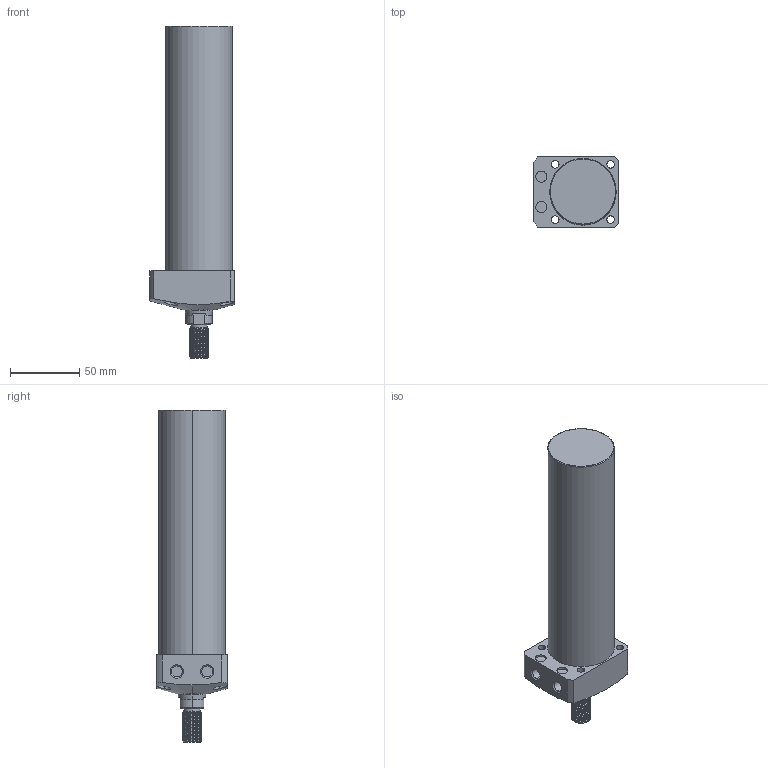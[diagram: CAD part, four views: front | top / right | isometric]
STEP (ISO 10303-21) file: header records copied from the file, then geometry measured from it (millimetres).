
FILE_DESCRIPTION (( 'STEP AP203' ), '1' );
FILE_NAME ('CLL-048CT-150.STEP', '2020-01-08T10:19:09', ( '' ), ( '' ), 'SwSTEP 2.0', 'SolidWorks 2015', '' );
FILE_SCHEMA (( 'CONFIG_CONTROL_DESIGN' ));
Length unit declared in the file: millimetre
Products named in the file (1): CLL-048CT-150
Bounding box: 61 x 51 x 240 mm (x, y, z)
Volume: 399293.1 mm3; surface area: 42729.3 mm2
Topology: 1 solids, 1 shells, 122 faces, 310 edges, 201 vertices
Faces by surface type: cylinder 77, plane 24, cone 17, torus 2, bspline 2
Entity records: 6476 total; most frequent: CARTESIAN_POINT 3675, ORIENTED_EDGE 620, DIRECTION 522, EDGE_CURVE 310, AXIS2_PLACEMENT_3D 206, VERTEX_POINT 201, EDGE_LOOP 141, ADVANCED_FACE 122
